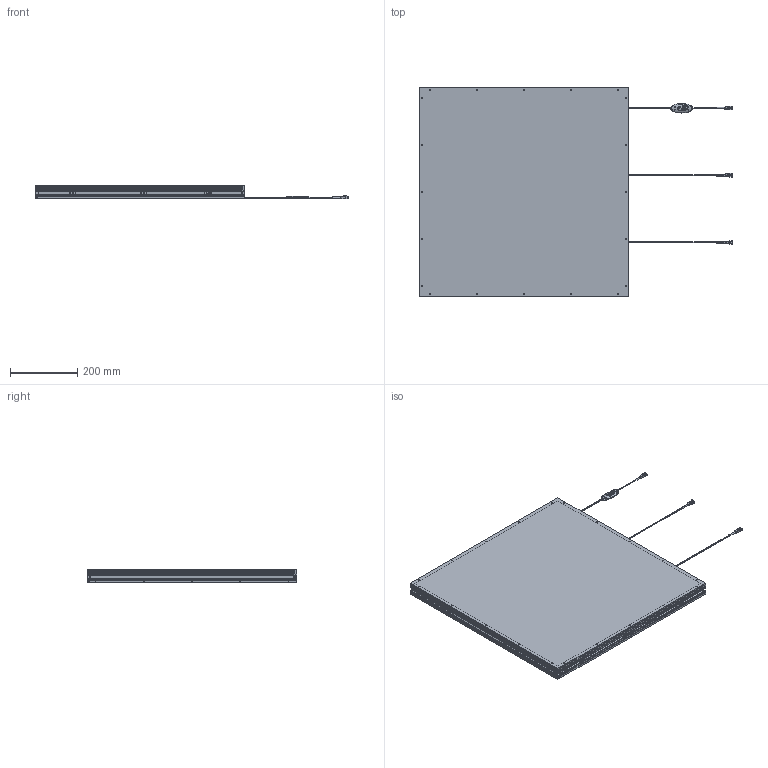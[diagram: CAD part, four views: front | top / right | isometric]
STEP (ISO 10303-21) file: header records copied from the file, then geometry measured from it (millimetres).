
FILE_DESCRIPTION( ('This file contains a STEP AP42 implementation' ,'as created by ZW3D STEP Interface translator.') ,'2;1' );
FILE_NAME( 'VDFL-600600_DRAWING_3D.stp' ,'25 911.145256', (''), ('ZWCAD Software Co.'), 'Version 1.0', 'ZW3D to STEP translator', '' );
FILE_SCHEMA(('AUTOMOTIVE_DESIGN { 1 0 10303 214 1 1 1 1 }'));
Length unit declared in the file: millimetre
Products named in the file (1): 0
Bounding box: 931.51 x 623 x 40.8 mm (x, y, z)
Volume: 1959458.4 mm3; surface area: 1886020.6 mm2
Topology: 1 solids, 80 shells, 2247 faces, 5902 edges, 3969 vertices
Faces by surface type: plane 1402, cylinder 643, cone 176, bspline 14, torus 12
Full cylindrical faces by diameter (mm): 1.6 x272, 2 x22, 2.2 x26, 3 x20
Entity records: 73421 total; most frequent: CARTESIAN_POINT 14777, ORIENTED_EDGE 11668, DIRECTION 11153, EDGE_CURVE 5834, VECTOR 4145, LINE 4145, VERTEX_POINT 3969, AXIS2_PLACEMENT_3D 3504
